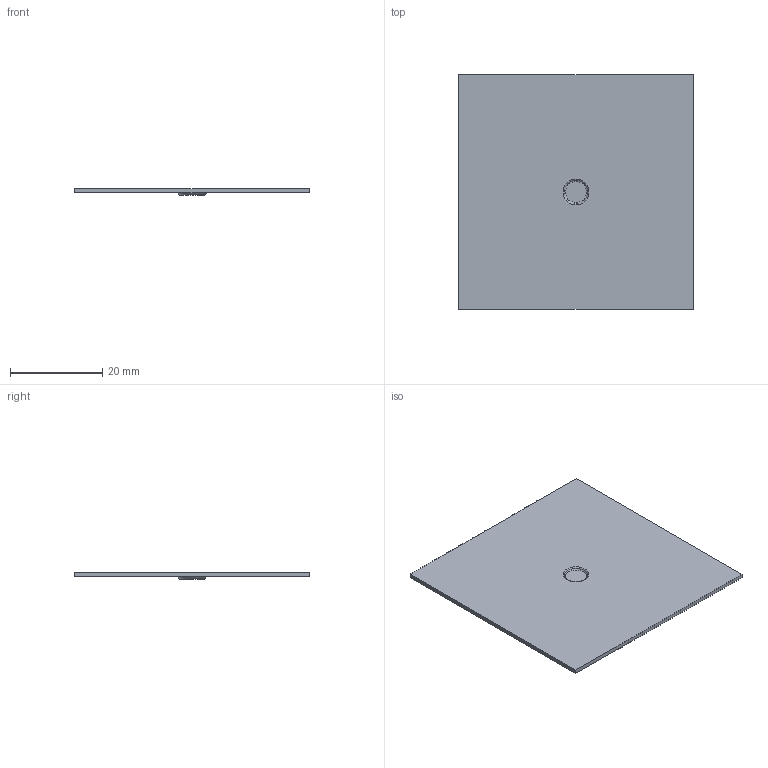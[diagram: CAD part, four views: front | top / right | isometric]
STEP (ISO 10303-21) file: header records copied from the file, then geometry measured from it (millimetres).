
FILE_DESCRIPTION((''),'1');
FILE_NAME('C:/Users/robertnolte/Desktop/WT#769436-20.stp','2012-03-30T01:05:49',(''),(''),'Spatial Interop R21 SP3','Kubotek KeyCreator 2011 V10.5.0 (24766)',' ');
FILE_SCHEMA(('CONFIG_CONTROL_DESIGN'));
Length unit declared in the file: inch
Products named in the file (1): 1
Bounding box: 50.8 x 50.8 x 1.42 mm (x, y, z)
Volume: 2363.5 mm3; surface area: 5355 mm2
Topology: 1 solids, 1 shells, 11 faces, 20 edges, 13 vertices
Faces by surface type: plane 8, torus 3
Entity records: 300 total; most frequent: DIRECTION 46, CARTESIAN_POINT 42, ORIENTED_EDGE 34, AXIS2_PLACEMENT_3D 17, EDGE_CURVE 17, EDGE_LOOP 16, VERTEX_POINT 13, LINE 12
